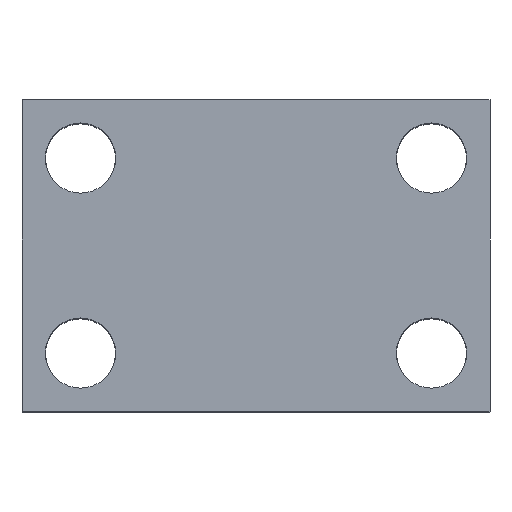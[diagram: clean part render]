
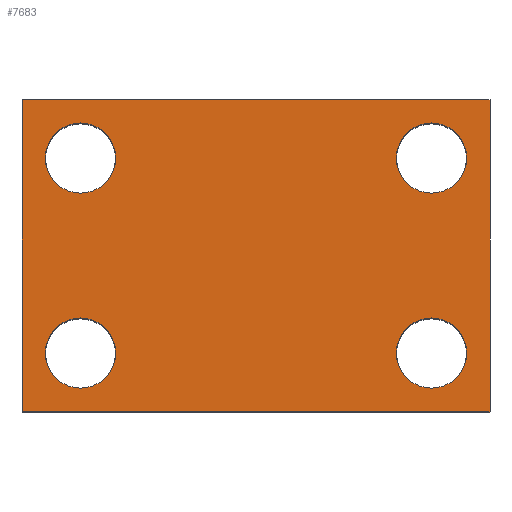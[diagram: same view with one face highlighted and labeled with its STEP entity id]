
A CAD part, top view. The second image highlights one B-rep face of the part: STEP entity #7683.
In plain terms, the highlighted planar face has unit normal (0, 0, 1).
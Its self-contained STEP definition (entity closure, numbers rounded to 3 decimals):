
#81 = DIRECTION ( 'NONE',  ( 1., 0., 0. ) ) ;
#311 = DIRECTION ( 'NONE',  ( 1., 0., 0. ) ) ;
#357 = ORIENTED_EDGE ( 'NONE', *, *, #3807, .F. ) ;
#776 = AXIS2_PLACEMENT_3D ( 'NONE', #2954, #12527, #4339 ) ;
#1091 = EDGE_CURVE ( 'NONE', #9302, #15305, #7700, .T. ) ;
#1109 = ORIENTED_EDGE ( 'NONE', *, *, #6880, .T. ) ;
#1153 = LINE ( 'NONE', #2102, #15641 ) ;
#1155 = EDGE_CURVE ( 'NONE', #6132, #10808, #17312, .T. ) ;
#1182 = PLANE ( 'NONE',  #14683 ) ;
#1426 = EDGE_LOOP ( 'NONE', ( #4987, #16117 ) ) ;
#1454 = EDGE_LOOP ( 'NONE', ( #2237, #16286, #357, #4909 ) ) ;
#1732 = CIRCLE ( 'NONE', #776, 4.5 ) ;
#1761 = DIRECTION ( 'NONE',  ( 0., 0., -1. ) ) ;
#1911 = EDGE_CURVE ( 'NONE', #12597, #3222, #1732, .T. ) ;
#2102 = CARTESIAN_POINT ( 'NONE',  ( 30., 40., 40. ) ) ;
#2237 = ORIENTED_EDGE ( 'NONE', *, *, #11687, .T. ) ;
#2367 = AXIS2_PLACEMENT_3D ( 'NONE', #9937, #1761, #11304 ) ;
#2954 = CARTESIAN_POINT ( 'NONE',  ( -22.5, 32.5, 40. ) ) ;
#2993 = FACE_OUTER_BOUND ( 'NONE', #1454, .T. ) ;
#3146 = CARTESIAN_POINT ( 'NONE',  ( -30., 40., 40. ) ) ;
#3222 = VERTEX_POINT ( 'NONE', #3539 ) ;
#3539 = CARTESIAN_POINT ( 'NONE',  ( -18., 32.5, 40. ) ) ;
#3807 = EDGE_CURVE ( 'NONE', #6053, #11201, #4094, .T. ) ;
#3818 = FACE_BOUND ( 'NONE', #16663, .T. ) ;
#3855 = VERTEX_POINT ( 'NONE', #8619 ) ;
#4094 = LINE ( 'NONE', #9755, #7315 ) ;
#4122 = CARTESIAN_POINT ( 'NONE',  ( -22.5, 32.5, 40. ) ) ;
#4339 = DIRECTION ( 'NONE',  ( -1., 0., 0. ) ) ;
#4469 = CARTESIAN_POINT ( 'NONE',  ( -22.5, 7.5, 40. ) ) ;
#4481 = ORIENTED_EDGE ( 'NONE', *, *, #1091, .T. ) ;
#4528 = CARTESIAN_POINT ( 'NONE',  ( 22.5, 7.5, 40. ) ) ;
#4530 = DIRECTION ( 'NONE',  ( 0., -1., 0. ) ) ;
#4909 = ORIENTED_EDGE ( 'NONE', *, *, #12170, .T. ) ;
#4987 = ORIENTED_EDGE ( 'NONE', *, *, #1911, .T. ) ;
#5511 = DIRECTION ( 'NONE',  ( -1., 0., 0. ) ) ;
#5610 = AXIS2_PLACEMENT_3D ( 'NONE', #4122, #13658, #5511 ) ;
#5616 = AXIS2_PLACEMENT_3D ( 'NONE', #17658, #15198, #13769 ) ;
#5739 = CARTESIAN_POINT ( 'NONE',  ( 22.5, 32.5, 40. ) ) ;
#5862 = DIRECTION ( 'NONE',  ( -1., 0., 0. ) ) ;
#5914 = DIRECTION ( 'NONE',  ( -1., 0., 0. ) ) ;
#5924 = AXIS2_PLACEMENT_3D ( 'NONE', #5739, #15267, #7109 ) ;
#6053 = VERTEX_POINT ( 'NONE', #14173 ) ;
#6132 = VERTEX_POINT ( 'NONE', #14454 ) ;
#6333 = CIRCLE ( 'NONE', #8676, 4.5 ) ;
#6445 = ORIENTED_EDGE ( 'NONE', *, *, #9542, .T. ) ;
#6625 = FACE_BOUND ( 'NONE', #1426, .T. ) ;
#6643 = EDGE_LOOP ( 'NONE', ( #1109, #6445 ) ) ;
#6707 = DIRECTION ( 'NONE',  ( 0., 0., -1. ) ) ;
#6744 = LINE ( 'NONE', #3146, #13127 ) ;
#6748 = CARTESIAN_POINT ( 'NONE',  ( 30., 40., 40. ) ) ;
#6880 = EDGE_CURVE ( 'NONE', #3855, #8585, #8122, .T. ) ;
#7075 = VERTEX_POINT ( 'NONE', #11500 ) ;
#7109 = DIRECTION ( 'NONE',  ( -1., 0., 0. ) ) ;
#7315 = VECTOR ( 'NONE', #311, 1000. ) ;
#7390 = VECTOR ( 'NONE', #81, 1000. ) ;
#7683 = ADVANCED_FACE ( 'NONE', ( #6625, #3818, #17508, #13885, #2993 ), #1182, .F. ) ;
#7700 = CIRCLE ( 'NONE', #5616, 4.5 ) ;
#8122 = CIRCLE ( 'NONE', #5924, 4.5 ) ;
#8213 = CARTESIAN_POINT ( 'NONE',  ( -30., 0., 40. ) ) ;
#8286 = CIRCLE ( 'NONE', #2367, 4.5 ) ;
#8544 = DIRECTION ( 'NONE',  ( -1., 0., 0. ) ) ;
#8567 = ORIENTED_EDGE ( 'NONE', *, *, #11302, .T. ) ;
#8585 = VERTEX_POINT ( 'NONE', #16444 ) ;
#8619 = CARTESIAN_POINT ( 'NONE',  ( 18., 32.5, 40. ) ) ;
#8676 = AXIS2_PLACEMENT_3D ( 'NONE', #4469, #14011, #5862 ) ;
#9255 = VERTEX_POINT ( 'NONE', #13024 ) ;
#9302 = VERTEX_POINT ( 'NONE', #11781 ) ;
#9542 = EDGE_CURVE ( 'NONE', #8585, #3855, #8286, .T. ) ;
#9607 = DIRECTION ( 'NONE',  ( 0., 0., -1. ) ) ;
#9755 = CARTESIAN_POINT ( 'NONE',  ( -30., 40., 40. ) ) ;
#9804 = CARTESIAN_POINT ( 'NONE',  ( 22.5, 7.5, 40. ) ) ;
#9937 = CARTESIAN_POINT ( 'NONE',  ( 22.5, 32.5, 40. ) ) ;
#9970 = CIRCLE ( 'NONE', #10510, 4.5 ) ;
#10389 = ORIENTED_EDGE ( 'NONE', *, *, #11358, .T. ) ;
#10510 = AXIS2_PLACEMENT_3D ( 'NONE', #4528, #14058, #5914 ) ;
#10601 = LINE ( 'NONE', #8213, #7390 ) ;
#10808 = VERTEX_POINT ( 'NONE', #11200 ) ;
#11101 = AXIS2_PLACEMENT_3D ( 'NONE', #9804, #9607, #8544 ) ;
#11200 = CARTESIAN_POINT ( 'NONE',  ( 27., 7.5, 40. ) ) ;
#11201 = VERTEX_POINT ( 'NONE', #6748 ) ;
#11302 = EDGE_CURVE ( 'NONE', #15305, #9302, #6333, .T. ) ;
#11304 = DIRECTION ( 'NONE',  ( -1., 0., 0. ) ) ;
#11358 = EDGE_CURVE ( 'NONE', #10808, #6132, #9970, .T. ) ;
#11500 = CARTESIAN_POINT ( 'NONE',  ( 30., 0., 40. ) ) ;
#11658 = DIRECTION ( 'NONE',  ( 0., -1., 0. ) ) ;
#11687 = EDGE_CURVE ( 'NONE', #9255, #7075, #10601, .T. ) ;
#11781 = CARTESIAN_POINT ( 'NONE',  ( -18., 7.5, 40. ) ) ;
#11785 = EDGE_CURVE ( 'NONE', #3222, #12597, #14205, .T. ) ;
#12170 = EDGE_CURVE ( 'NONE', #6053, #9255, #6744, .T. ) ;
#12392 = CARTESIAN_POINT ( 'NONE',  ( -27., 32.5, 40. ) ) ;
#12527 = DIRECTION ( 'NONE',  ( 0., 0., -1. ) ) ;
#12597 = VERTEX_POINT ( 'NONE', #12392 ) ;
#13024 = CARTESIAN_POINT ( 'NONE',  ( -30., 0., 40. ) ) ;
#13127 = VECTOR ( 'NONE', #4530, 1000. ) ;
#13658 = DIRECTION ( 'NONE',  ( 0., 0., -1. ) ) ;
#13693 = EDGE_LOOP ( 'NONE', ( #13714, #10389 ) ) ;
#13714 = ORIENTED_EDGE ( 'NONE', *, *, #1155, .T. ) ;
#13769 = DIRECTION ( 'NONE',  ( -1., 0., 0. ) ) ;
#13885 = FACE_BOUND ( 'NONE', #6643, .T. ) ;
#14011 = DIRECTION ( 'NONE',  ( 0., 0., -1. ) ) ;
#14058 = DIRECTION ( 'NONE',  ( 0., 0., -1. ) ) ;
#14173 = CARTESIAN_POINT ( 'NONE',  ( -30., 40., 40. ) ) ;
#14205 = CIRCLE ( 'NONE', #5610, 4.5 ) ;
#14454 = CARTESIAN_POINT ( 'NONE',  ( 18., 7.5, 40. ) ) ;
#14683 = AXIS2_PLACEMENT_3D ( 'NONE', #14850, #6707, #16233 ) ;
#14850 = CARTESIAN_POINT ( 'NONE',  ( -30., 40., 40. ) ) ;
#15198 = DIRECTION ( 'NONE',  ( 0., 0., -1. ) ) ;
#15267 = DIRECTION ( 'NONE',  ( 0., 0., -1. ) ) ;
#15305 = VERTEX_POINT ( 'NONE', #15772 ) ;
#15641 = VECTOR ( 'NONE', #11658, 1000. ) ;
#15772 = CARTESIAN_POINT ( 'NONE',  ( -27., 7.5, 40. ) ) ;
#16117 = ORIENTED_EDGE ( 'NONE', *, *, #11785, .T. ) ;
#16233 = DIRECTION ( 'NONE',  ( -1., 0., 0. ) ) ;
#16286 = ORIENTED_EDGE ( 'NONE', *, *, #17410, .F. ) ;
#16444 = CARTESIAN_POINT ( 'NONE',  ( 27., 32.5, 40. ) ) ;
#16663 = EDGE_LOOP ( 'NONE', ( #8567, #4481 ) ) ;
#17312 = CIRCLE ( 'NONE', #11101, 4.5 ) ;
#17410 = EDGE_CURVE ( 'NONE', #11201, #7075, #1153, .T. ) ;
#17508 = FACE_BOUND ( 'NONE', #13693, .T. ) ;
#17658 = CARTESIAN_POINT ( 'NONE',  ( -22.5, 7.5, 40. ) ) ;
